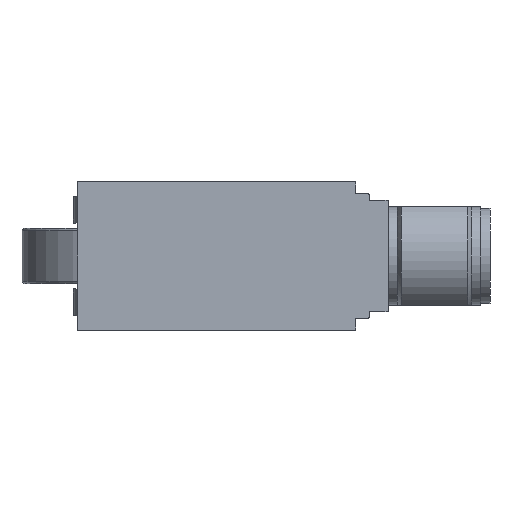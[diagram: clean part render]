
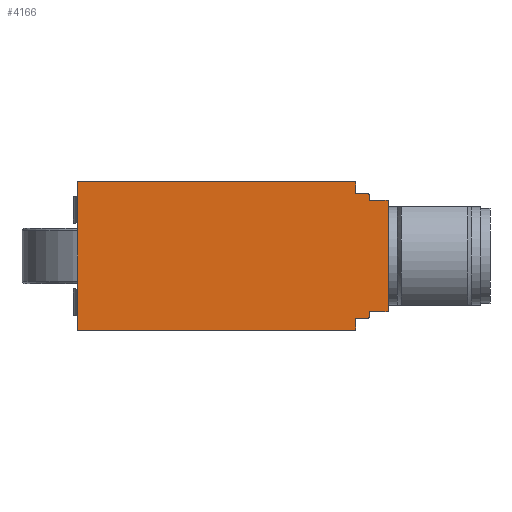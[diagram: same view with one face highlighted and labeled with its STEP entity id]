
A CAD part, front view. The second image highlights one B-rep face of the part: STEP entity #4166.
In plain terms, the highlighted planar face has unit normal (0, -1, 0) as drawn and (0, 0, -1) by its records, which use the part's own axes.
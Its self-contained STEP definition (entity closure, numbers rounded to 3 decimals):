
#50=LINE('',#5903,#500);
#58=LINE('',#5918,#508);
#90=LINE('',#6021,#540);
#106=LINE('',#6066,#556);
#122=LINE('',#6099,#572);
#123=LINE('',#6102,#573);
#124=LINE('',#6106,#574);
#125=LINE('',#6108,#575);
#126=LINE('',#6110,#576);
#127=LINE('',#6112,#577);
#128=LINE('',#6114,#578);
#129=LINE('',#6117,#579);
#500=VECTOR('',#4767,1.25);
#508=VECTOR('',#4775,1.25);
#540=VECTOR('',#4879,30.);
#556=VECTOR('',#4923,16.);
#572=VECTOR('',#4961,30.);
#573=VECTOR('',#4964,1.2);
#574=VECTOR('',#4967,0.45);
#575=VECTOR('',#4968,2.);
#576=VECTOR('',#4969,12.);
#577=VECTOR('',#4970,2.);
#578=VECTOR('',#4971,0.45);
#579=VECTOR('',#4974,1.2);
#982=PLANE('',#4443);
#1194=FACE_OUTER_BOUND('',#1433,.T.);
#1433=EDGE_LOOP('',(#2941,#2942,#2943,#2944,#2945,#2946,#2947,#2948,#2949,
#2950,#2951,#2952,#2953,#2954));
#1658=CIRCLE('',#4444,0.3);
#1659=CIRCLE('',#4445,0.3);
#1747=VERTEX_POINT('',#5895);
#1750=VERTEX_POINT('',#5900);
#1751=VERTEX_POINT('',#5902);
#1758=VERTEX_POINT('',#5916);
#1793=VERTEX_POINT('',#6019);
#1808=VERTEX_POINT('',#6064);
#1815=VERTEX_POINT('',#6101);
#1816=VERTEX_POINT('',#6103);
#1817=VERTEX_POINT('',#6105);
#1818=VERTEX_POINT('',#6107);
#1819=VERTEX_POINT('',#6109);
#1820=VERTEX_POINT('',#6111);
#1821=VERTEX_POINT('',#6113);
#1822=VERTEX_POINT('',#6115);
#2148=EDGE_CURVE('',#1751,#1750,#50,.T.);
#2156=EDGE_CURVE('',#1747,#1758,#58,.T.);
#2205=EDGE_CURVE('',#1758,#1793,#90,.T.);
#2227=EDGE_CURVE('',#1808,#1793,#106,.T.);
#2244=EDGE_CURVE('',#1808,#1751,#122,.T.);
#2245=EDGE_CURVE('',#1750,#1815,#123,.T.);
#2246=EDGE_CURVE('',#1815,#1816,#1658,.T.);
#2247=EDGE_CURVE('',#1816,#1817,#124,.T.);
#2248=EDGE_CURVE('',#1817,#1818,#125,.T.);
#2249=EDGE_CURVE('',#1819,#1818,#126,.T.);
#2250=EDGE_CURVE('',#1820,#1819,#127,.T.);
#2251=EDGE_CURVE('',#1821,#1820,#128,.T.);
#2252=EDGE_CURVE('',#1822,#1821,#1659,.T.);
#2253=EDGE_CURVE('',#1747,#1822,#129,.T.);
#2941=ORIENTED_EDGE('',*,*,#2245,.T.);
#2942=ORIENTED_EDGE('',*,*,#2246,.T.);
#2943=ORIENTED_EDGE('',*,*,#2247,.T.);
#2944=ORIENTED_EDGE('',*,*,#2248,.T.);
#2945=ORIENTED_EDGE('',*,*,#2249,.F.);
#2946=ORIENTED_EDGE('',*,*,#2250,.F.);
#2947=ORIENTED_EDGE('',*,*,#2251,.F.);
#2948=ORIENTED_EDGE('',*,*,#2252,.F.);
#2949=ORIENTED_EDGE('',*,*,#2253,.F.);
#2950=ORIENTED_EDGE('',*,*,#2156,.T.);
#2951=ORIENTED_EDGE('',*,*,#2205,.T.);
#2952=ORIENTED_EDGE('',*,*,#2227,.F.);
#2953=ORIENTED_EDGE('',*,*,#2244,.T.);
#2954=ORIENTED_EDGE('',*,*,#2148,.T.);
#4166=ADVANCED_FACE('',(#1194),#982,.F.);
#4443=AXIS2_PLACEMENT_3D('',#6100,#4962,#4963);
#4444=AXIS2_PLACEMENT_3D('',#6104,#4965,#4966);
#4445=AXIS2_PLACEMENT_3D('',#6116,#4972,#4973);
#4767=DIRECTION('',(0.,-1.,0.));
#4775=DIRECTION('',(0.,-1.,0.));
#4879=DIRECTION('',(-1.,0.,0.));
#4923=DIRECTION('',(0.,-1.,0.));
#4961=DIRECTION('',(1.,0.,0.));
#4962=DIRECTION('center_axis',(0.,0.,1.));
#4963=DIRECTION('ref_axis',(1.,0.,0.));
#4964=DIRECTION('',(1.,0.,0.));
#4965=DIRECTION('center_axis',(0.,0.,-1.));
#4966=DIRECTION('ref_axis',(0.707,0.707,0.));
#4967=DIRECTION('',(0.,-1.,0.));
#4968=DIRECTION('',(1.,0.,0.));
#4969=DIRECTION('',(0.,1.,0.));
#4970=DIRECTION('',(1.,0.,0.));
#4971=DIRECTION('',(0.,1.,0.));
#4972=DIRECTION('center_axis',(0.,0.,1.));
#4973=DIRECTION('ref_axis',(0.707,-0.707,0.));
#4974=DIRECTION('',(1.,0.,0.));
#5895=CARTESIAN_POINT('',(15.,-14.75,-43.));
#5900=CARTESIAN_POINT('',(15.,-1.25,-43.));
#5902=CARTESIAN_POINT('',(15.,0.,-43.));
#5903=CARTESIAN_POINT('',(15.,0.,-43.));
#5916=CARTESIAN_POINT('',(15.,-16.,-43.));
#5918=CARTESIAN_POINT('',(15.,-14.75,-43.));
#6019=CARTESIAN_POINT('',(-15.,-16.,-43.));
#6021=CARTESIAN_POINT('',(15.,-16.,-43.));
#6064=CARTESIAN_POINT('',(-15.,0.,-43.));
#6066=CARTESIAN_POINT('',(-15.,0.,-43.));
#6099=CARTESIAN_POINT('',(-15.,0.,-43.));
#6100=CARTESIAN_POINT('Origin',(1.75,-16.,-43.));
#6101=CARTESIAN_POINT('',(16.2,-1.25,-43.));
#6102=CARTESIAN_POINT('',(15.,-1.25,-43.));
#6103=CARTESIAN_POINT('',(16.5,-1.55,-43.));
#6104=CARTESIAN_POINT('Origin',(16.2,-1.55,-43.));
#6105=CARTESIAN_POINT('',(16.5,-2.,-43.));
#6106=CARTESIAN_POINT('',(16.5,-1.55,-43.));
#6107=CARTESIAN_POINT('',(18.5,-2.,-43.));
#6108=CARTESIAN_POINT('',(16.5,-2.,-43.));
#6109=CARTESIAN_POINT('',(18.5,-14.,-43.));
#6110=CARTESIAN_POINT('',(18.5,-14.,-43.));
#6111=CARTESIAN_POINT('',(16.5,-14.,-43.));
#6112=CARTESIAN_POINT('',(16.5,-14.,-43.));
#6113=CARTESIAN_POINT('',(16.5,-14.45,-43.));
#6114=CARTESIAN_POINT('',(16.5,-14.45,-43.));
#6115=CARTESIAN_POINT('',(16.2,-14.75,-43.));
#6116=CARTESIAN_POINT('Origin',(16.2,-14.45,-43.));
#6117=CARTESIAN_POINT('',(15.,-14.75,-43.));
